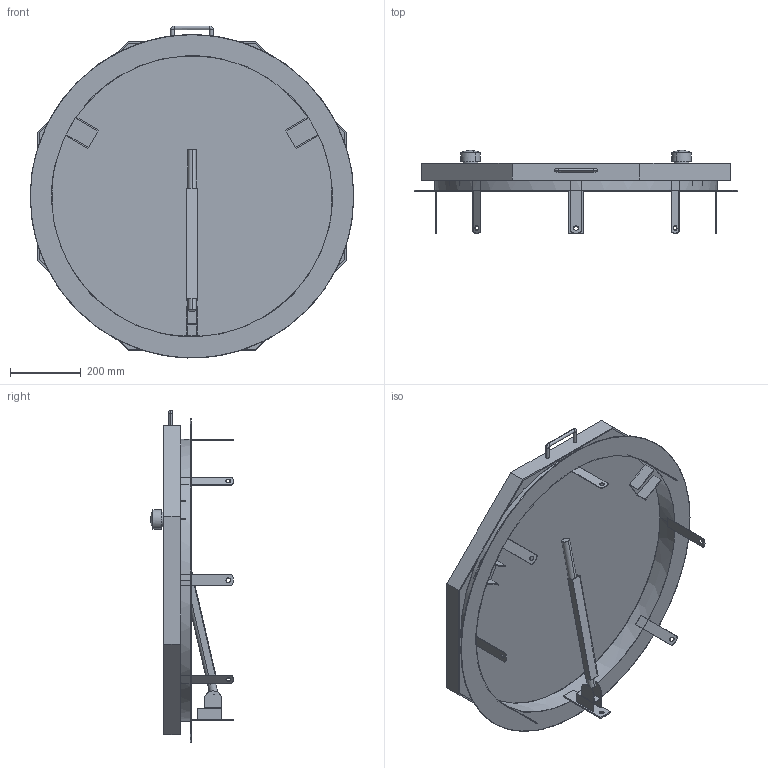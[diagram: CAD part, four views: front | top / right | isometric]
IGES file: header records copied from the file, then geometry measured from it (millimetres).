
Start section:  PTC IGES file: 52391799.igs
Global section: file name: 52391799.igs; native system: Creo Parametric by PTC Inc.; preprocessor: 2022162; author: wep; organization: Unknown; date: 20250430.095933; units: millimetre
Bounding box: 915 x 235 x 938.86 mm (x, y, z)
Surface area: 2373553.5 mm2 (no closed solid volume)
Topology: 0 solids, 0 shells, 754 faces, 4134 edges, 4126 vertices
Faces by surface type: bspline 423, extrusion 275, revolution 56
